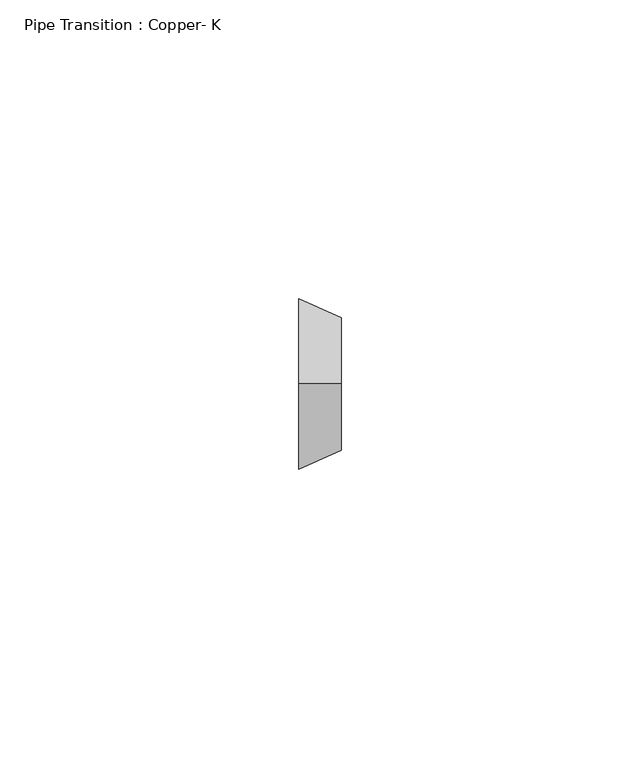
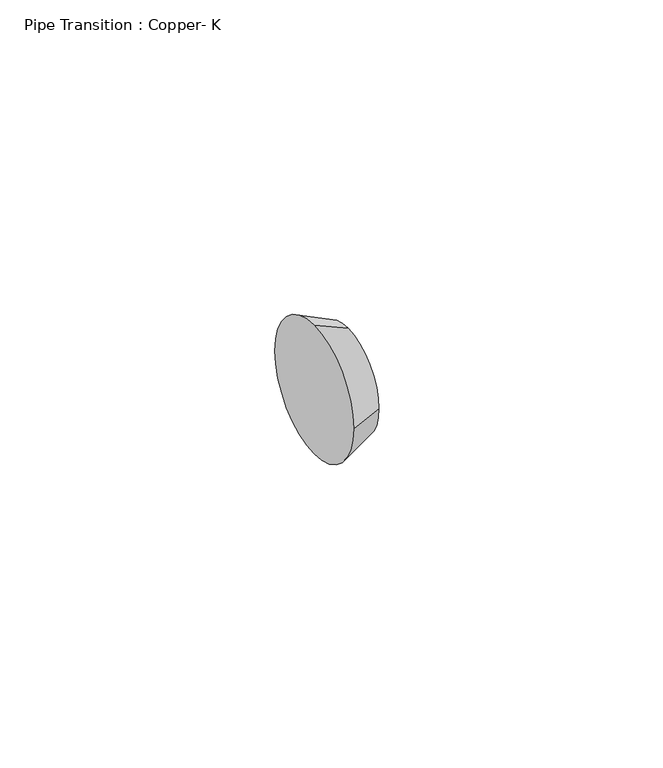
"""IFC4 building model written with IfcOpenShell, lengths in millimetres: pipe fitting geometry, Pipe Transition : Copper- K."""

from ifc_helpers import new_model, si_unit, frame, origin, place, context, project, spatial, polyline, circle_curve, source, transform, mapped, element, save
from ifc_brep_helpers import plane_surface, revolved_surface, advanced_brep


def pipe_transition_copper_k_b4f16853(model_context):
    return source(origin(), model_context, "Body", "AdvancedBrep", [
        advanced_brep(
        [(7.14375, 0.0, 11.1125), (7.14375, -11.1125, 0.0), (7.14375, 0.0, -11.1125), (7.14375, 11.1125, 0.0), (0.0, 0.0, 14.2875), (0.0, 14.2875, 0.0), (0.0, 0.0, -14.2875), (0.0, -14.2875, 0.0)],
        [
            (0, 1, circle_curve(frame((7.14375, 0.0, 0.0), z_axis=(1.0, 0.0, 0.0), x_axis=(0.0, 0.0, 1.0)), 11.1125)),
            (1, 2, circle_curve(frame((7.14375, 0.0, 0.0), z_axis=(1.0, 0.0, 0.0), x_axis=(0.0, -1.0, 0.0)), 11.1125)),
            (2, 3, circle_curve(frame((7.14375, 0.0, 0.0), z_axis=(1.0, 0.0, 0.0), x_axis=(0.0, 0.0, -1.0)), 11.1125)),
            (3, 0, circle_curve(frame((7.14375, 0.0, 0.0), z_axis=(1.0, 0.0, 0.0), x_axis=(0.0, 1.0, 0.0)), 11.1125)),
            (4, 5, circle_curve(frame((0.0, 0.0, 0.0), z_axis=(-1.0, 0.0, 0.0), x_axis=(0.0, 1.0, 0.0)), 14.2875)),
            (5, 6, circle_curve(frame((0.0, 0.0, 0.0), z_axis=(-1.0, 0.0, 0.0), x_axis=(0.0, 0.0, -1.0)), 14.2875)),
            (6, 7, circle_curve(frame((0.0, 0.0, 0.0), z_axis=(-1.0, 0.0, 0.0), x_axis=(0.0, -1.0, 0.0)), 14.2875)),
            (7, 4, circle_curve(frame((0.0, 0.0, 0.0), z_axis=(-1.0, 0.0, 0.0), x_axis=(0.0, 0.0, 1.0)), 14.2875)),
            (7, 1),
            (0, 4),
            (6, 2),
            (5, 3),
        ],
        [
            plane_surface(frame((7.14375, 0.0, 0.0), z_axis=(1.0, 0.0, 0.0), x_axis=(0.0, -1.0, 0.0))),
            plane_surface(frame((0.0, 0.0, 0.0), z_axis=(-1.0, 0.0, 0.0), x_axis=(0.0, -1.0, 0.0))),
            revolved_surface(polyline([(7.143750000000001, 0.0, 11.1125), (0.0, 0.0, 14.2875)]), (32.146875, 0.0, 0.0), (-1.0, 0.0, 0.0)),
            revolved_surface(polyline([(7.143750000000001, -11.1125, 0.0), (0.0, -14.2875, 0.0)]), (32.146875, 0.0, 0.0), (-1.0, 0.0, 0.0)),
            revolved_surface(polyline([(7.143750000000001, 0.0, -11.1125), (0.0, 0.0, -14.2875)]), (32.146875, 0.0, 0.0), (-1.0, 0.0, 0.0)),
            revolved_surface(polyline([(7.143750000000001, 11.1125, 0.0), (0.0, 14.2875, 0.0)]), (32.146875, 0.0, 0.0), (-1.0, 0.0, 0.0)),
        ],
        [
            (0, [[1, 2, 3, 4]]),
            (1, [[5, 6, 7, 8]]),
            (2, [[-8, 9, -1, 10]]),
            (3, [[-7, 11, -2, -9]]),
            (4, [[-6, 12, -3, -11]]),
            (5, [[-5, -10, -4, -12]]),
        ],
    ),
        advanced_brep(
        [(7.14375, 0.0, 11.1125), (7.14375, -11.1125, 0.0), (7.14375, 0.0, -11.1125), (7.14375, 11.1125, 0.0), (0.0, 0.0, 14.2875), (0.0, 14.2875, 0.0), (0.0, 0.0, -14.2875), (0.0, -14.2875, 0.0)],
        [
            (0, 1, circle_curve(frame((7.14375, 0.0, 0.0), z_axis=(1.0, 0.0, -1.1743160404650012e-12), x_axis=(1.174357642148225e-12, 0.0, 1.0)), 11.1125)),
            (1, 2, circle_curve(frame((7.14375, 0.0, 0.0), z_axis=(1.0, 0.0, -1.1269465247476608e-12), x_axis=(0.0, -1.0, 0.0)), 11.1125)),
            (2, 3, circle_curve(frame((7.14375, 0.0, 0.0), z_axis=(1.0, 0.0, -1.828334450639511e-12), x_axis=(-1.8282364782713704e-12, 0.0, -1.0)), 11.1125)),
            (3, 0, circle_curve(frame((7.14375, 0.0, 0.0), z_axis=(1.0, 0.0, 0.0), x_axis=(0.0, 1.0, 0.0)), 11.1125)),
            (4, 5, circle_curve(frame((0.0, 0.0, 0.0), z_axis=(-1.0, 0.0, 0.0), x_axis=(0.0, 1.0, 0.0)), 14.2875)),
            (5, 6, circle_curve(frame((0.0, 0.0, 0.0), z_axis=(-1.0, 0.0, 1.828334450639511e-12), x_axis=(-1.8282364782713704e-12, 0.0, -1.0)), 14.2875)),
            (6, 7, circle_curve(frame((0.0, 0.0, 0.0), z_axis=(-1.0, 0.0, 1.1269465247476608e-12), x_axis=(0.0, -1.0, 0.0)), 14.2875)),
            (7, 4, circle_curve(frame((0.0, 0.0, 0.0), z_axis=(-1.0, 0.0, 1.1743160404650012e-12), x_axis=(1.174357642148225e-12, 0.0, 1.0)), 14.2875)),
            (7, 1),
            (0, 4),
            (6, 2),
            (5, 3),
        ],
        [
            plane_surface(frame((7.14375, 0.0, 0.0), z_axis=(1.0, 0.0, 0.0), x_axis=(0.0, -1.0, 0.0))),
            plane_surface(frame((0.0, 0.0, 0.0), z_axis=(-1.0, 0.0, 0.0), x_axis=(0.0, -1.0, 0.0))),
            revolved_surface(polyline([(7.14375000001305, 0.0, 11.112499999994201), (0.0, 0.0, 14.2875)]), (32.146875, 0.0, 0.0), (-1.0, 0.0, 1.1743160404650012e-12)),
            revolved_surface(polyline([(7.143750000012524, -11.112499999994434, 0.0), (0.0, -14.2875, 0.0)]), (32.146875, 0.0, 0.0), (-1.0, 0.0, 1.1269465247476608e-12)),
            revolved_surface(polyline([(7.143750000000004, 0.0, -11.112499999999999), (-2.6119550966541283e-11, 0.0, -14.287500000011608)]), (32.146875, 0.0, 0.0), (-1.0, 0.0, 1.828334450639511e-12)),
            revolved_surface(polyline([(7.143750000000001, 11.1125, 0.0), (0.0, 14.2875, 0.0)]), (32.146875, 0.0, 0.0), (-1.0, 0.0, 0.0)),
        ],
        [
            (0, [[1, 2, 3, 4]]),
            (1, [[5, 6, 7, 8]]),
            (2, [[-8, 9, -1, 10]]),
            (3, [[-7, 11, -2, -9]]),
            (4, [[-6, 12, -3, -11]]),
            (5, [[-5, -10, -4, -12]]),
        ],
    ),
    ])


if __name__ == "__main__":
    model = new_model("IFC4")
    model_context = context("Model", 3, world=origin())
    ifc_project = project(units=[si_unit("LENGTHUNIT", "METRE", prefix="MILLI")], contexts=[model_context])
    site = spatial("IfcSite", under=ifc_project)
    building = spatial("IfcBuilding", under=site)
    placement = place(None, origin())
    pipe_transition_copper_k_shape = pipe_transition_copper_k_b4f16853(model_context)
    element("IfcPipeFitting", 1, ObjectType="Pipe Transition : Copper- K", at=placement, inside=building, context=model_context, shape_type="MappedRepresentation", body=[
        mapped(pipe_transition_copper_k_shape, transform((0.0, 0.0, 0.0), x_axis=(1.0, 0.0, 0.0), y_axis=(0.0, 1.0, 0.0), z_axis=(0.0, 0.0, 1.0))),
    ])
    save(model, "model.ifc")
